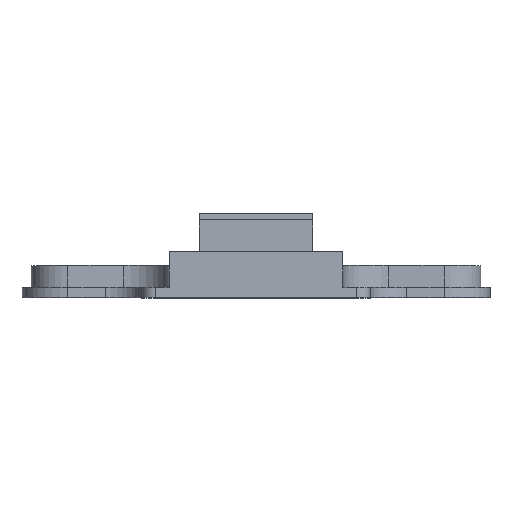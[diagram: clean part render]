
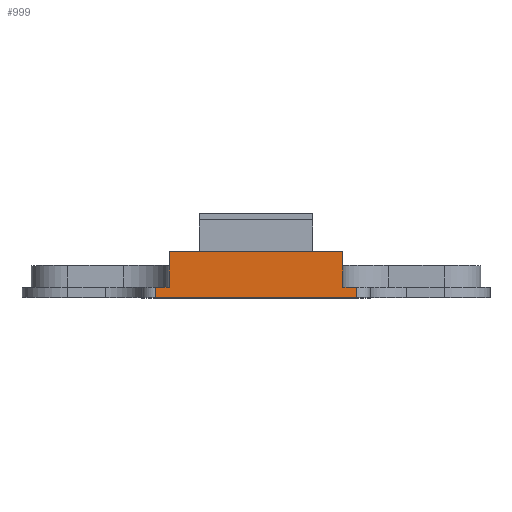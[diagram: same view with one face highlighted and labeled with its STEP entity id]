
A CAD part, top view. The second image highlights one B-rep face of the part: STEP entity #999.
In plain terms, the highlighted planar face has unit normal (0, 0, 1).
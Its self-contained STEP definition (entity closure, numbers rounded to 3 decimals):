
#18 = VECTOR ( 'NONE', #1229, 1000. ) ;
#22 = CARTESIAN_POINT ( 'NONE',  ( 10., 1.1, 17. ) ) ;
#26 = EDGE_CURVE ( 'NONE', #1205, #2410, #1605, .T. ) ;
#33 = CARTESIAN_POINT ( 'NONE',  ( -9., 5., 17. ) ) ;
#52 = CARTESIAN_POINT ( 'NONE',  ( -14., 0., 17. ) ) ;
#117 = ORIENTED_EDGE ( 'NONE', *, *, #2707, .T. ) ;
#154 = VERTEX_POINT ( 'NONE', #33 ) ;
#205 = DIRECTION ( 'NONE',  ( 0., 1., 0. ) ) ;
#268 = VECTOR ( 'NONE', #287, 1000. ) ;
#287 = DIRECTION ( 'NONE',  ( -1., 0., 0. ) ) ;
#289 = VECTOR ( 'NONE', #205, 1000. ) ;
#313 = VERTEX_POINT ( 'NONE', #1153 ) ;
#318 = CARTESIAN_POINT ( 'NONE',  ( 11.5, 1.1, 17. ) ) ;
#360 = LINE ( 'NONE', #1919, #289 ) ;
#472 = DIRECTION ( 'NONE',  ( 1., 0., 0. ) ) ;
#594 = EDGE_CURVE ( 'NONE', #313, #720, #360, .T. ) ;
#683 = CARTESIAN_POINT ( 'NONE',  ( 11.5, 0., 17. ) ) ;
#685 = VERTEX_POINT ( 'NONE', #2017 ) ;
#720 = VERTEX_POINT ( 'NONE', #1602 ) ;
#762 = VERTEX_POINT ( 'NONE', #1911 ) ;
#772 = ORIENTED_EDGE ( 'NONE', *, *, #1986, .F. ) ;
#842 = LINE ( 'NONE', #52, #268 ) ;
#910 = DIRECTION ( 'NONE',  ( 0., 0., 1. ) ) ;
#951 = VECTOR ( 'NONE', #472, 1000. ) ;
#967 = EDGE_LOOP ( 'NONE', ( #1163, #117, #1150, #1784, #772, #1380, #1386, #1082 ) ) ;
#999 = ADVANCED_FACE ( 'NONE', ( #2266 ), #1744, .T. ) ;
#1023 = CARTESIAN_POINT ( 'NONE',  ( 6.59, 5., 17. ) ) ;
#1065 = EDGE_CURVE ( 'NONE', #1205, #313, #842, .T. ) ;
#1082 = ORIENTED_EDGE ( 'NONE', *, *, #26, .T. ) ;
#1150 = ORIENTED_EDGE ( 'NONE', *, *, #1791, .T. ) ;
#1152 = CARTESIAN_POINT ( 'NONE',  ( -9., 1.1, 17. ) ) ;
#1153 = CARTESIAN_POINT ( 'NONE',  ( -10.5, 0., 17. ) ) ;
#1163 = ORIENTED_EDGE ( 'NONE', *, *, #1221, .F. ) ;
#1183 = DIRECTION ( 'NONE',  ( 0., 1., 0. ) ) ;
#1205 = VERTEX_POINT ( 'NONE', #683 ) ;
#1221 = EDGE_CURVE ( 'NONE', #685, #2410, #2777, .T. ) ;
#1229 = DIRECTION ( 'NONE',  ( -1., 0., 0. ) ) ;
#1253 = CARTESIAN_POINT ( 'NONE',  ( -15., 1.1, 17. ) ) ;
#1325 = VECTOR ( 'NONE', #1679, 1000. ) ;
#1380 = ORIENTED_EDGE ( 'NONE', *, *, #594, .F. ) ;
#1386 = ORIENTED_EDGE ( 'NONE', *, *, #1065, .F. ) ;
#1447 = EDGE_CURVE ( 'NONE', #154, #762, #1624, .T. ) ;
#1602 = CARTESIAN_POINT ( 'NONE',  ( -10.5, 1.1, 17. ) ) ;
#1605 = LINE ( 'NONE', #2675, #2681 ) ;
#1624 = LINE ( 'NONE', #1152, #2265 ) ;
#1679 = DIRECTION ( 'NONE',  ( 1., 0., 0. ) ) ;
#1740 = DIRECTION ( 'NONE',  ( 0., 1., 0. ) ) ;
#1744 = PLANE ( 'NONE',  #2156 ) ;
#1784 = ORIENTED_EDGE ( 'NONE', *, *, #1447, .T. ) ;
#1791 = EDGE_CURVE ( 'NONE', #1848, #154, #2240, .T. ) ;
#1848 = VERTEX_POINT ( 'NONE', #2117 ) ;
#1911 = CARTESIAN_POINT ( 'NONE',  ( -9., 1.1, 17. ) ) ;
#1919 = CARTESIAN_POINT ( 'NONE',  ( -10.5, 0., 17. ) ) ;
#1960 = CARTESIAN_POINT ( 'NONE',  ( 16., 1.1, 17. ) ) ;
#1986 = EDGE_CURVE ( 'NONE', #720, #762, #2267, .T. ) ;
#1987 = LINE ( 'NONE', #22, #2420 ) ;
#2017 = CARTESIAN_POINT ( 'NONE',  ( 10., 1.1, 17. ) ) ;
#2117 = CARTESIAN_POINT ( 'NONE',  ( 10., 5., 17. ) ) ;
#2156 = AXIS2_PLACEMENT_3D ( 'NONE', #2181, #910, #2392 ) ;
#2181 = CARTESIAN_POINT ( 'NONE',  ( -12.053, -3.751, 17. ) ) ;
#2240 = LINE ( 'NONE', #1023, #18 ) ;
#2265 = VECTOR ( 'NONE', #2427, 1000. ) ;
#2266 = FACE_OUTER_BOUND ( 'NONE', #967, .T. ) ;
#2267 = LINE ( 'NONE', #1253, #1325 ) ;
#2392 = DIRECTION ( 'NONE',  ( 1., 0., 0. ) ) ;
#2410 = VERTEX_POINT ( 'NONE', #318 ) ;
#2420 = VECTOR ( 'NONE', #1740, 1000. ) ;
#2427 = DIRECTION ( 'NONE',  ( 0., -1., 0. ) ) ;
#2675 = CARTESIAN_POINT ( 'NONE',  ( 11.5, 0., 17. ) ) ;
#2681 = VECTOR ( 'NONE', #1183, 1000. ) ;
#2707 = EDGE_CURVE ( 'NONE', #685, #1848, #1987, .T. ) ;
#2777 = LINE ( 'NONE', #1960, #951 ) ;
